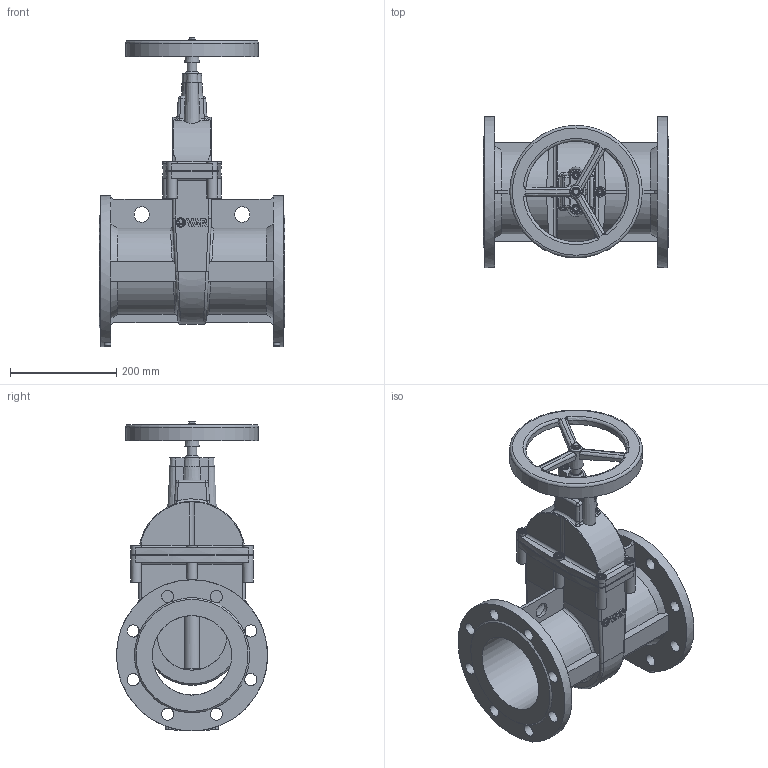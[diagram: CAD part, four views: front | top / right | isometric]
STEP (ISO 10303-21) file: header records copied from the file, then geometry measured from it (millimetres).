
FILE_DESCRIPTION(('STEP AP242'), '1');
FILE_NAME('青溻桄赅', '', ('UNSPECIFIED'), ('UNSPECIFIED'), 'C3D Converter', 'C3D Toolkit', '');
FILE_SCHEMA(('AP242_MANAGED_MODEL_BASED_3D_ENGINEERING_MIM_LF { 1 0 10303 442 1 1 4 }'));
Length unit declared in the file: millimetre
Assembly tree (17 placements, depth 2):
  (unnamed)
    (unnamed)
    (unnamed)
    (unnamed)
    (unnamed)
    (unnamed)  x2
    (unnamed)
    (unnamed)
    (unnamed)  x6
    (unnamed)  x2
    (unnamed)
Bounding box: 350 x 285 x 584.1 mm (x, y, z)
Volume: 5742630.8 mm3; surface area: 1287233.9 mm2
Topology: 20 solids, 20 shells, 967 faces, 2439 edges, 1546 vertices
Faces by surface type: plane 475, cylinder 193, extrusion 139, bspline 70, cone 69, torus 21
Full cylindrical faces by diameter (mm): 6 x3, 8 x8, 10 x30, 16 x16, 17.626 x1, 18 x7, 23 x16, 29 x2, 30.667 x4, 131 x2, 150 x4, 180.4 x4, 188 x1, 190 x1, 200 x1, 240 x1, 250 x1, 285 x2
Entity records: 43281 total; most frequent: CARTESIAN_POINT 21657, ORIENTED_EDGE 3976, DIRECTION 3142, EDGE_CURVE 1988, VERTEX_POINT 1348, EDGE_LOOP 1084, VECTOR 1058, AXIS2_PLACEMENT_3D 1042
